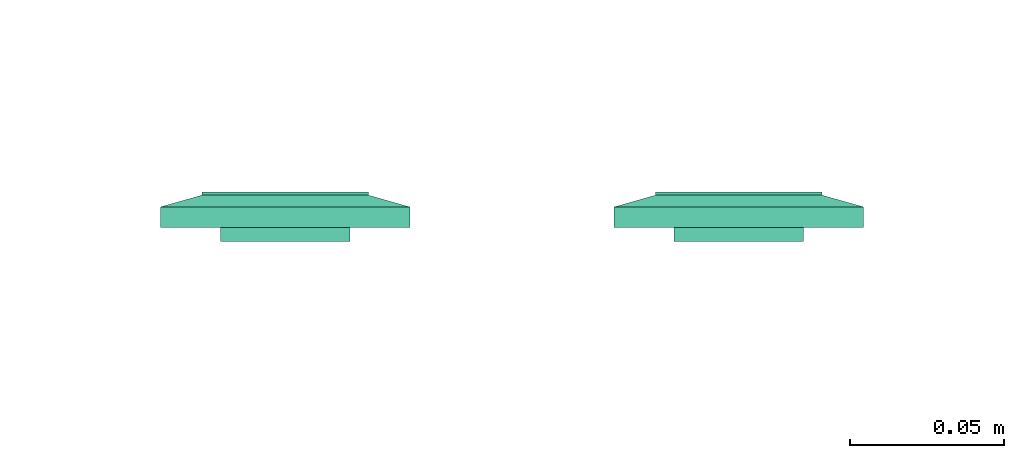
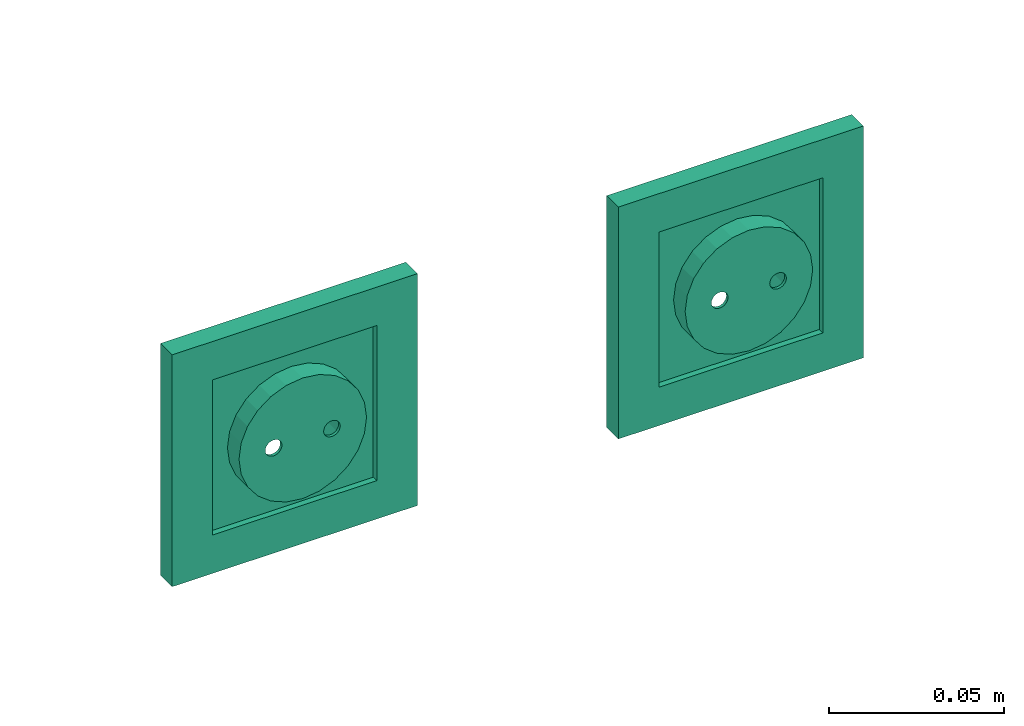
# One storey, part 47 of 146: 2 flow terminals.
"""IFC2X3 building model written with IfcOpenShell, lengths in metres."""

import ifcopenshell
import ifcopenshell.guid

model = None  # the IFC model being written
_history = None  # IfcOwnerHistory: only IFC2X3 demands one
_inside = {}  # id of a spatial element -> (the spatial element, [elements in it])
_under = {}  # id of a project, library or spatial element -> (it, [spatial elements below it])
_declared = {}  # id of a project -> (the project, [libraries it declares])
_typed = {}  # id of a type object -> (the type object, [elements of that type])
_made_of = {}  # id of a material, layer set ... -> (it, [elements and type objects made of it])


def new_model(schema):
    """Start an empty IFC model of exactly this schema.

    Asked for "IFC4X3", IfcOpenShell would pick the latest addendum, in which some entities
    have other attributes; the version numbers below select the first issue.
    IFC2X3 requires an IfcOwnerHistory on every rooted entity: one is made here for all.
    """
    global model, _history
    if schema == "IFC4X3":
        model = ifcopenshell.file(schema_version=(4, 3, 0, 0))
    else:
        model = ifcopenshell.file(schema=schema)
    _inside.clear()
    _under.clear()
    _declared.clear()
    _typed.clear()
    _made_of.clear()
    _history = None
    if model.schema == "IFC2X3":
        org = make("IfcOrganization", Name="unknown")
        user = make(
            "IfcPersonAndOrganization",
            ThePerson=make("IfcPerson", FamilyName="unknown"),
            TheOrganization=org,
        )
        app = make(
            "IfcApplication",
            ApplicationDeveloper=org,
            Version="unknown",
            ApplicationFullName="unknown",
            ApplicationIdentifier="unknown",
        )
        _history = make(
            "IfcOwnerHistory",
            OwningUser=user,
            OwningApplication=app,
            ChangeAction="ADDED",
            CreationDate=0,
        )
    return model


def make(cls, **values):
    """One entity of the class cls with the attributes given. An attribute that is None is left unset."""
    return model.create_entity(
        cls, **{name: value for name, value in values.items() if value is not None}
    )


def entity(cls, *values):
    """Any entity or typed value of the class cls, its attributes in the order of the schema. None: left unset."""
    e = model.create_entity(cls)
    for i, value in enumerate(values):
        if value is not None:
            e[i] = value
    return e


def rooted(cls, **values):
    """An entity with a GlobalId (a new one), such as an element, a storey or a relation."""
    return make(cls, GlobalId=ifcopenshell.guid.new(), OwnerHistory=_history, **values)


def si_unit(unit_type, name, prefix=None):
    """IfcSIUnit, for example si_unit("LENGTHUNIT", "METRE", prefix="MILLI")."""
    return make("IfcSIUnit", UnitType=unit_type, Prefix=prefix, Name=name)


def converted_unit(unit_type, name, factor, base, dimensions=None, offset=None):
    """IfcConversionBasedUnit, such as the inch: factor (a typed value) times the base unit."""
    return make(
        "IfcConversionBasedUnit"
        if offset is None
        else "IfcConversionBasedUnitWithOffset",
        ConversionOffset=offset,
        Dimensions=None
        if dimensions is None
        else entity("IfcDimensionalExponents", *dimensions),
        UnitType=unit_type,
        Name=name,
        ConversionFactor=make(
            "IfcMeasureWithUnit", ValueComponent=factor, UnitComponent=base
        ),
    )


def derived_unit(unit_type, elements):
    """IfcDerivedUnit: a product of units, each with its exponent."""
    return make(
        "IfcDerivedUnit",
        Elements=[
            make("IfcDerivedUnitElement", Unit=unit, Exponent=power)
            for unit, power in elements
        ],
        UnitType=unit_type,
    )


def assignment(units):
    """IfcUnitAssignment: the units of a project."""
    return None if units is None else make("IfcUnitAssignment", Units=units)


def point(xyz):
    """IfcCartesianPoint."""
    return None if xyz is None else make("IfcCartesianPoint", Coordinates=xyz)


def direction(xyz):
    """IfcDirection."""
    return None if xyz is None else make("IfcDirection", DirectionRatios=xyz)


def frame(location, z_axis=None, x_axis=None):
    """IfcAxis2Placement3D, a coordinate frame: its origin and axes. An axis left out is left unset."""
    return make(
        "IfcAxis2Placement3D",
        Location=point(location),
        Axis=direction(z_axis),
        RefDirection=direction(x_axis),
    )


def origin():
    """The frame at (0, 0, 0) with its axes left unset."""
    return frame((0.0, 0.0, 0.0))


def place(relative_to, where):
    """IfcLocalPlacement: puts the frame where relative to a parent placement (None: the world)."""
    return make(
        "IfcLocalPlacement", PlacementRelTo=relative_to, RelativePlacement=where
    )


def context(
    kind, dimensions, precision=None, world=None, true_north=None, identifier=None
):
    """IfcGeometricRepresentationContext, for example the 3D "Model" context."""
    return make(
        "IfcGeometricRepresentationContext",
        ContextIdentifier=identifier,
        ContextType=kind,
        CoordinateSpaceDimension=dimensions,
        Precision=precision,
        WorldCoordinateSystem=world,
        TrueNorth=true_north,
    )


def subcontext(parent, identifier, kind, view, scale=None):
    """IfcGeometricRepresentationSubContext, for example "Body" below "Model"."""
    return make(
        "IfcGeometricRepresentationSubContext",
        ContextIdentifier=identifier,
        ContextType=kind,
        ParentContext=parent,
        TargetScale=scale,
        TargetView=view,
    )


def project(units=None, contexts=None):
    """IfcProject with its units and contexts."""
    return rooted(
        "IfcProject",
        Name="project",
        RepresentationContexts=contexts,
        UnitsInContext=assignment(units),
    )


def spatial(cls, under=None, at=None, **own):
    """A site, building, storey or space (cls), placed at a placement, below another one or the project."""
    s = rooted(cls, ObjectPlacement=at, **own)
    if under is not None:
        _under.setdefault(under.id(), (under, []))[1].append(s)
    return s


def faces_of(points, faces, orient=None, outer=None):
    """IfcFace entities. A face is a list of loops; a loop is a list of indices into points, from 0.

    orient and outer hold one flag for each loop. By default every Orientation is true, the
    first loop of a face is its IfcFaceOuterBound and the others are IfcFaceBound.
    """
    made = []
    for i, loops in enumerate(faces):
        bounds = []
        for j, loop in enumerate(loops):
            is_outer = j == 0 if outer is None else outer[i][j]
            bounds.append(
                make(
                    "IfcFaceOuterBound" if is_outer else "IfcFaceBound",
                    Bound=make("IfcPolyLoop", Polygon=[points[k] for k in loop]),
                    Orientation=True if orient is None else orient[i][j],
                )
            )
        made.append(make("IfcFace", Bounds=bounds))
    return made


def face_set(faces, orient=None, outer=None):
    """The faces of one IfcConnectedFaceSet. surface_model builds it on its shared points."""
    return ("IfcConnectedFaceSet", faces, orient, outer)


def surface_model(cls, points, shells):
    """IfcFaceBasedSurfaceModel or IfcShellBasedSurfaceModel (cls): surfaces that need not close."""
    shared = [point(p) for p in points]
    made = [make(c, CfsFaces=faces_of(shared, fs, o, b)) for c, fs, o, b in shells]
    if cls == "IfcFaceBasedSurfaceModel":
        return make(cls, FbsmFaces=made)
    return make(cls, SbsmBoundary=made)


def shape(context_of_items, identifier, shape_type, items):
    """IfcShapeRepresentation: the items that make up one representation, for example the "Body"."""
    return make(
        "IfcShapeRepresentation",
        ContextOfItems=context_of_items,
        RepresentationIdentifier=identifier,
        RepresentationType=shape_type,
        Items=items,
    )


def source(mapping_origin, context_of_items, identifier, shape_type, items):
    """IfcRepresentationMap: a shape defined once, which mapped items show again and again."""
    return make(
        "IfcRepresentationMap",
        MappingOrigin=mapping_origin,
        MappedRepresentation=shape(context_of_items, identifier, shape_type, items),
    )


def transform(
    local_origin,
    x_axis=None,
    y_axis=None,
    z_axis=None,
    scale=None,
    scale2=None,
    scale3=None,
    uniform=True,
):
    """IfcCartesianTransformationOperator3D, or its non-uniform kind. x_axis, y_axis, z_axis: its Axis1, 2, 3."""
    if uniform:
        return make(
            "IfcCartesianTransformationOperator3D",
            Axis1=direction(x_axis),
            Axis2=direction(y_axis),
            LocalOrigin=point(local_origin),
            Scale=scale,
            Axis3=direction(z_axis),
        )
    return make(
        "IfcCartesianTransformationOperator3DnonUniform",
        Axis1=direction(x_axis),
        Axis2=direction(y_axis),
        LocalOrigin=point(local_origin),
        Scale=scale,
        Axis3=direction(z_axis),
        Scale2=scale2,
        Scale3=scale3,
    )


def mapped(mapping_source, mapping_target):
    """IfcMappedItem: shows the shape of a source again, moved by a transform."""
    return make(
        "IfcMappedItem", MappingSource=mapping_source, MappingTarget=mapping_target
    )


def made_of(thing, what):
    """Note that an element or type object is made of a material, layer set ...; save() writes the relation."""
    if what is not None:
        _made_of.setdefault(what.id(), (what, []))[1].append(thing)
    return thing


def type_object(cls, material=None, **own):
    """A type object (cls), such as IfcWallType, which elements share."""
    return made_of(rooted(cls, **own), material)


def type_shapes(of_type, sources):
    """Give a type object the sources (RepresentationMaps) that its elements show as mapped items."""
    of_type.RepresentationMaps = sources


def element(
    cls,
    number,
    at=None,
    inside=None,
    cuts=None,
    type_object=None,
    material=None,
    context=None,
    identifier="Body",
    shape_type=None,
    held_by="IfcProductDefinitionShape",
    body=None,
    shapes=None,
    **own,
):
    """One element of the class cls, such as IfcWall. Its Tag is "e" and its number.

    at: its placement. inside: the storey or other place that contains it. cuts: it is an
    opening in that element (IfcRelVoidsElement). A single representation is given by context,
    identifier, shape_type and body (its items); several are given by shapes. held_by: the class
    of the entity that holds the representations. save() writes the other relations.
    """
    e = rooted(cls, Tag="e%d" % number, ObjectPlacement=at, **own)
    if body is not None:
        shapes = [shape(context, identifier, shape_type, body)]
    if shapes is not None:
        e.Representation = make(held_by, Representations=shapes)
    if inside is not None:
        _inside.setdefault(inside.id(), (inside, []))[1].append(e)
    if cuts is not None:
        rooted(
            "IfcRelVoidsElement", RelatingBuildingElement=cuts, RelatedOpeningElement=e
        )
    if type_object is not None:
        _typed.setdefault(type_object.id(), (type_object, []))[1].append(e)
    return made_of(e, material)


def aggregate(whole, parts):
    """IfcRelAggregates: a whole, such as a stair, and the parts it consists of."""
    return rooted("IfcRelAggregates", RelatingObject=whole, RelatedObjects=parts)


def save(model, path):
    """Write the relations noted so far, then the file.

    IfcRelAggregates (storeys below a building ...), IfcRelContainedInSpatialStructure (elements
    in a storey), IfcRelDefinesByType, IfcRelAssociatesMaterial and IfcRelDeclares: one each for
    every whole, place, type object, material and project.
    """
    for whole, parts in _under.values():
        aggregate(whole, parts)
    for where, things in _inside.values():
        rooted(
            "IfcRelContainedInSpatialStructure",
            RelatedElements=things,
            RelatingStructure=where,
        )
    for kind, things in _typed.values():
        rooted("IfcRelDefinesByType", RelatedObjects=things, RelatingType=kind)
    for what, things in _made_of.values():
        rooted("IfcRelAssociatesMaterial", RelatedObjects=things, RelatingMaterial=what)
    for by, libraries in _declared.values():
        rooted("IfcRelDeclares", RelatingContext=by, RelatedDefinitions=libraries)
    model.write(path)


model = new_model("IFC2X3")

# Units and contexts
model_context = context("Model", 3, precision=1e-05, world=origin(), true_north=direction((6.12303176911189e-17, 1.0)))
body_context = subcontext(model_context, "Body", "Model", "MODEL_VIEW")
ifc_project = project(units=[si_unit("LENGTHUNIT", "METRE"), si_unit("AREAUNIT", "SQUARE_METRE"), si_unit("VOLUMEUNIT", "CUBIC_METRE"), converted_unit("PLANEANGLEUNIT", "DEGREE", entity("IfcRatioMeasure", 0.0174532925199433), si_unit("PLANEANGLEUNIT", "RADIAN"), dimensions=[0, 0, 0, 0, 0, 0, 0]), si_unit("MASSUNIT", "GRAM", prefix="KILO"), derived_unit("MASSDENSITYUNIT", [(si_unit("MASSUNIT", "GRAM", prefix="KILO"), 1), (si_unit("LENGTHUNIT", "METRE"), -3)]), si_unit("TIMEUNIT", "SECOND"), si_unit("FREQUENCYUNIT", "HERTZ"), si_unit("THERMODYNAMICTEMPERATUREUNIT", "DEGREE_CELSIUS"), derived_unit("THERMALTRANSMITTANCEUNIT", [(si_unit("MASSUNIT", "GRAM", prefix="KILO"), 1), (si_unit("THERMODYNAMICTEMPERATUREUNIT", "KELVIN"), -1), (si_unit("TIMEUNIT", "SECOND"), -3)]), derived_unit("VOLUMETRICFLOWRATEUNIT", [(si_unit("LENGTHUNIT", "METRE"), 3), (si_unit("TIMEUNIT", "SECOND"), -1)]), si_unit("ELECTRICCURRENTUNIT", "AMPERE"), si_unit("ELECTRICVOLTAGEUNIT", "VOLT"), si_unit("POWERUNIT", "WATT"), si_unit("FORCEUNIT", "NEWTON"), si_unit("ILLUMINANCEUNIT", "LUX"), si_unit("LUMINOUSFLUXUNIT", "LUMEN"), si_unit("LUMINOUSINTENSITYUNIT", "CANDELA"), derived_unit("USERDEFINED", [(si_unit("MASSUNIT", "GRAM", prefix="KILO"), -1), (si_unit("LENGTHUNIT", "METRE"), -2), (si_unit("TIMEUNIT", "SECOND"), 3), (si_unit("LUMINOUSFLUXUNIT", "LUMEN"), 1)]), derived_unit("LINEARVELOCITYUNIT", [(si_unit("LENGTHUNIT", "METRE"), 1), (si_unit("TIMEUNIT", "SECOND"), -1)]), si_unit("PRESSUREUNIT", "PASCAL"), derived_unit("USERDEFINED", [(si_unit("LENGTHUNIT", "METRE"), -2), (si_unit("MASSUNIT", "GRAM", prefix="KILO"), 1), (si_unit("TIMEUNIT", "SECOND"), -2)])], contexts=[model_context])

# Site, building, storey
site_placement = place(None, origin())
site = spatial("IfcSite", under=ifc_project, at=site_placement, Name="Default", CompositionType="ELEMENT")
building_placement = place(site_placement, origin())
building = spatial("IfcBuilding", under=site, at=building_placement, CompositionType="ELEMENT")
storey_placement = place(building_placement, origin())
storey = spatial("IfcBuildingStorey", under=building, at=storey_placement, Name="S01", CompositionType="ELEMENT", Elevation=0.0)

# Flow terminals
light_fixture_type = type_object("IfcLightFixtureType", Name="PC IP21", PredefinedType="NOTDEFINED")
shared_shape = source(origin(), body_context, "Body", "SurfaceModel", [
    surface_model("IfcFaceBasedSurfaceModel", [(-0.00225000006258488, 0.0127499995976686, 0.00949633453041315), (0.0, 0.0104999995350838, 0.00949633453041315), (0.0, 0.0115376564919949, 0.0101656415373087), (0.0, 0.0139623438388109, 0.0101656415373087), (0.0, 0.0144589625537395, 0.00984531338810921), (0.0, 0.0121178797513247, 0.0102778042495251), (0.0, 0.0133821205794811, 0.0102778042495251), (0.0, 0.0127499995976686, 0.010399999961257), (0.0, 0.0149999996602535, 0.00949633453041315), (0.00225000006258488, 0.0127499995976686, 0.00949633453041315), (0.0, 0.0110410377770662, 0.00984531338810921), (0.0, 0.0127499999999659, 0.00949633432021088), (0.00225000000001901, 0.0127499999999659, 0.00949633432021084), (0.00217333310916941, 0.0121676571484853, 0.00949633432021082), (0.00194855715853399, 0.0116249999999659, 0.00949633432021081), (0.00159099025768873, 0.0111590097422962, 0.00949633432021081), (0.001125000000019, 0.010801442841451, 0.00949633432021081), (0.00058234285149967, 0.0105766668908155, 0.00949633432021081), (0.0, 0.0104999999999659, 0.00949633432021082), (-0.000582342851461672, 0.0105766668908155, 0.00949633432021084), (-0.001124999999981, 0.010801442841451, 0.00949633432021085), (-0.00159099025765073, 0.0111590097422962, 0.00949633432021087), (-0.00194855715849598, 0.011624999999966, 0.00949633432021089), (-0.0021733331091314, 0.0121676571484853, 0.00949633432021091), (-0.00224999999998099, 0.012749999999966, 0.00949633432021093), (-0.00217333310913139, 0.0133323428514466, 0.00949633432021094), (-0.00194855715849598, 0.013874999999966, 0.00949633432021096), (-0.00159099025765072, 0.0143409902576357, 0.00949633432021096), (-0.00112499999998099, 0.0146985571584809, 0.00949633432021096), (-0.00058234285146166, 0.0149233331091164, 0.00949633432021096), (0.0, 0.0149999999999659, 0.00949633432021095), (0.000582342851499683, 0.0149233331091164, 0.00949633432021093), (0.00112500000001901, 0.0146985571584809, 0.00949633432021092), (0.00159099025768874, 0.0143409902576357, 0.00949633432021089), (0.001948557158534, 0.0138749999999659, 0.00949633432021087), (0.00217333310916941, 0.0133323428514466, 0.00949633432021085), (0.00225000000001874, 0.0127499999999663, -0.00360000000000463), (0.00217333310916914, 0.0121676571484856, -0.00360000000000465), (0.00194855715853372, 0.0116249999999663, -0.00360000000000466), (0.00159099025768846, 0.0111590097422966, -0.00360000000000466), (0.00112500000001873, 0.0108014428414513, -0.00360000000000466), (0.000582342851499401, 0.0105766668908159, -0.00360000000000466), (0.0, 0.0104999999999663, -0.00360000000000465), (-0.000582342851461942, 0.0105766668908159, -0.00360000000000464), (-0.00112499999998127, 0.0108014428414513, -0.00360000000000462), (-0.001590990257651, 0.0111590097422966, -0.0036000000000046), (-0.00194855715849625, 0.0116249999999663, -0.00360000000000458), (-0.00217333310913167, 0.0121676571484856, -0.00360000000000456), (-0.00224999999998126, 0.0127499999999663, -0.00360000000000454), (-0.00217333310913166, 0.013332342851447, -0.00360000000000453), (-0.00194855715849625, 0.0138749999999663, -0.00360000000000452), (-0.00159099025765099, 0.014340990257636, -0.00360000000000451), (-0.00112499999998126, 0.0146985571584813, -0.00360000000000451), (-0.000582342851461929, 0.0149233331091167, -0.00360000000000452), (0.0, 0.0149999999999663, -0.00360000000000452), (0.000582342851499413, 0.0149233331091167, -0.00360000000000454), (0.00112500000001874, 0.0146985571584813, -0.00360000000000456), (0.00159099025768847, 0.014340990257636, -0.00360000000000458), (0.00194855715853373, 0.0138749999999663, -0.0036000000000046), (0.00217333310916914, 0.013332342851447, -0.00360000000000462), (0.0270000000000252, 0.026999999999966, 0.0113999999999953), (-0.0269999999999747, 0.026999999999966, 0.0113999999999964), (-0.0269999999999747, -0.0270000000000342, 0.0113999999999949), (0.0270000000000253, -0.0270000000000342, 0.0113999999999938), (-0.0199999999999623, 0.0, 0.0113999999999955), (-0.0193185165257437, -0.00517638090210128, 0.0113999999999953), (-0.0173205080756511, -0.0100000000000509, 0.0113999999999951), (-0.0141421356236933, -0.0141421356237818, 0.011399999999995), (-0.00999999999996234, -0.0173205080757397, 0.0113999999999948), (-0.00517638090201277, -0.0193185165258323, 0.0113999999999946), (0.0, -0.0200000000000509, 0.0113999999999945), (0.00517638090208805, -0.0193185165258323, 0.0113999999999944), (0.0100000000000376, -0.0173205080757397, 0.0113999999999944), (0.0141421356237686, -0.0141421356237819, 0.0113999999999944), (0.0173205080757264, -0.010000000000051, 0.0113999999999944), (0.0193185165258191, -0.00517638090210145, 0.0113999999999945), (0.0200000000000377, 0.0, 0.0113999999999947), (0.0193185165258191, 0.00517638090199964, 0.0113999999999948), (0.0173205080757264, 0.0099999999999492, 0.011399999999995), (0.0141421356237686, 0.0141421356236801, 0.0113999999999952), (0.0100000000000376, 0.0173205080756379, 0.0113999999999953), (0.00517638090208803, 0.0193185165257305, 0.0113999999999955), (0.0, 0.0199999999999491, 0.0113999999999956), (-0.00517638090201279, 0.0193185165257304, 0.0113999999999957), (-0.00999999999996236, 0.0173205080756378, 0.0113999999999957), (-0.0141421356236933, 0.01414213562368, 0.0113999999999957), (-0.0173205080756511, 0.00999999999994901, 0.0113999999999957), (-0.0193185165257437, 0.00517638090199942, 0.0113999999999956), (0.0270000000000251, 0.0269999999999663, 0.00199999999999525), (0.0270000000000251, -0.0270000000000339, 0.00199999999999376), (-0.0269999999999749, -0.0270000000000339, 0.00199999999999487), (-0.0269999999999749, 0.0269999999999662, 0.00199999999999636), (0.0210000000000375, 0.0, 0.00199999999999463), (0.0202844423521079, -0.00543519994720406, 0.00199999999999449), (0.0181865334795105, -0.0105000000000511, 0.0019999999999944), (0.0148492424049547, -0.0148492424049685, 0.00199999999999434), (0.0105000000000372, -0.0181865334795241, 0.00199999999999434), (0.0054351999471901, -0.0202844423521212, 0.00199999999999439), (0.0, -0.0210000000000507, 0.00199999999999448), (-0.00543519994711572, -0.020284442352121, 0.00199999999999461), (-0.0104999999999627, -0.0181865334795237, 0.00199999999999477), (-0.0148492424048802, -0.014849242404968, 0.00199999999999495), (-0.0181865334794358, -0.0105000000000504, 0.00199999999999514), (-0.020284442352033, -0.00543519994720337, 0.00199999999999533), (-0.0209999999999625, 0.0, 0.00199999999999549), (-0.0202844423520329, 0.0054351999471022, 0.00199999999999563), (-0.0181865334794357, 0.0104999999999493, 0.00199999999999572), (-0.01484924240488, 0.0148492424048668, 0.00199999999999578), (-0.0104999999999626, 0.0181865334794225, 0.00199999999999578), (-0.00543519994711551, 0.0202844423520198, 0.00199999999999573), (0.0, 0.0209999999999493, 0.00199999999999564), (0.00543519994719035, 0.0202844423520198, 0.00199999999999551), (0.0105000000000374, 0.0181865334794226, 0.00199999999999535), (0.0148492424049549, 0.0148492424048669, 0.00199999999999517), (0.0181865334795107, 0.0104999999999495, 0.00199999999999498), (0.0202844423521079, 0.00543519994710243, 0.00199999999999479), (0.0200000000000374, 0.0, -0.00360000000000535), (0.0193185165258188, -0.00517638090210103, -0.00360000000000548), (0.0173205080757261, -0.0100000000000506, -0.00360000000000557), (0.0141421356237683, -0.0141421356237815, -0.00360000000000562), (0.0100000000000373, -0.0173205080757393, -0.00360000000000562), (0.00517638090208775, -0.0193185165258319, -0.00360000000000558), (0.0, -0.0200000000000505, -0.00360000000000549), (-0.00517638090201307, -0.0193185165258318, -0.00360000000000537), (-0.00999999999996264, -0.0173205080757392, -0.00360000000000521), (-0.0141421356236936, -0.0141421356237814, -0.00360000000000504), (-0.0173205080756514, -0.0100000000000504, -0.00360000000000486), (-0.019318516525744, -0.00517638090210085, -0.00360000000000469), (-0.0199999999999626, 0.0, -0.00360000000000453), (-0.0193185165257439, 0.00517638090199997, -0.0036000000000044), (-0.0173205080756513, 0.00999999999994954, -0.00360000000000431), (-0.0141421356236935, 0.0141421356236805, -0.00360000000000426), (-0.00999999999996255, 0.0173205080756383, -0.00360000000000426), (-0.00517638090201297, 0.0193185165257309, -0.0036000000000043), (0.0, 0.0199999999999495, -0.00360000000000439), (0.00517638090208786, 0.0193185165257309, -0.00360000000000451), (0.0100000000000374, 0.0173205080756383, -0.00360000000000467), (0.0141421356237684, 0.0141421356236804, -0.00360000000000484), (0.0173205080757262, 0.0099999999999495, -0.00360000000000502), (0.0193185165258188, 0.00517638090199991, -0.00360000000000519), (-0.0123499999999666, 0.0, -0.00360000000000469), (-0.0122562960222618, -0.000711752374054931, -0.00360000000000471), (-0.0119815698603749, -0.00137500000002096, -0.00360000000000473), (-0.0115445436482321, -0.00194454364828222, -0.00360000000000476), (-0.0109749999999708, -0.00238156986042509, -0.00360000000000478), (-0.0103117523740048, -0.00265629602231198, -0.0036000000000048), (-0.00959999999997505, -0.00275000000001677, -0.00360000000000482), (-0.0088882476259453, -0.00265629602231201, -0.00360000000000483), (-0.00822499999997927, -0.00238156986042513, -0.00360000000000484), (-0.00765545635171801, -0.00194454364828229, -0.00360000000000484), (-0.00721843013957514, -0.00137500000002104, -0.00360000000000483), (-0.00694370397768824, -0.000711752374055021, -0.00360000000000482), (-0.00684999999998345, 0.0, -0.0036000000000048), (-0.00694370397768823, 0.000711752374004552, -0.00360000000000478), (-0.00721843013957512, 0.00137499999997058, -0.00360000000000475), (-0.00765545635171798, 0.00194454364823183, -0.00360000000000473), (-0.00822499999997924, 0.00238156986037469, -0.0036000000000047), (-0.00888824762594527, 0.00265629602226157, -0.00360000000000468), (-0.00959999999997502, 0.00274999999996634, -0.00360000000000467), (-0.0103117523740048, 0.00265629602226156, -0.00360000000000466), (-0.0109749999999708, 0.00238156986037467, -0.00360000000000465), (-0.011544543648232, 0.00194454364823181, -0.00360000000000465), (-0.0119815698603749, 0.00137499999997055, -0.00360000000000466), (-0.0122562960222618, 0.000711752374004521, -0.00360000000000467), (0.00685000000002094, 0.0, -0.00360000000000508), (0.0069437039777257, -0.00071175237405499, -0.0036000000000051), (0.00721843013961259, -0.00137500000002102, -0.00360000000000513), (0.00765545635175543, -0.00194454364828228, -0.00360000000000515), (0.00822500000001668, -0.00238156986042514, -0.00360000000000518), (0.00888824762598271, -0.00265629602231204, -0.0036000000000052), (0.00960000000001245, -0.00275000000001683, -0.00360000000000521), (0.0103117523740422, -0.00265629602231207, -0.00360000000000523), (0.0109750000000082, -0.00238156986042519, -0.00360000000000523), (0.0115445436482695, -0.00194454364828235, -0.00360000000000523), (0.0119815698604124, -0.0013750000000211, -0.00360000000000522), (0.0122562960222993, -0.00071175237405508, -0.00360000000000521), (0.012350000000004, 0.0, -0.00360000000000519), (0.0122562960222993, 0.000711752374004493, -0.00360000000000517), (0.0119815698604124, 0.00137499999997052, -0.00360000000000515), (0.0115445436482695, 0.00194454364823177, -0.00360000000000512), (0.0109750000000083, 0.00238156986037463, -0.0036000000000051), (0.0103117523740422, 0.00265629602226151, -0.00360000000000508), (0.00960000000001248, 0.00274999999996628, -0.00360000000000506), (0.00888824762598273, 0.0026562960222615, -0.00360000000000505), (0.0082250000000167, 0.00238156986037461, -0.00360000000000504), (0.00765545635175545, 0.00194454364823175, -0.00360000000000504), (0.0072184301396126, 0.00137499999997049, -0.00360000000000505), (0.00694370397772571, 0.000711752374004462, -0.00360000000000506), (0.0210000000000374, 0.0, -0.00460000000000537), (0.0202844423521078, -0.00543519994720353, -0.00460000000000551), (0.0181865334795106, -0.0105000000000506, -0.0046000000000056), (0.0148492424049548, -0.0148492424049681, -0.00460000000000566), (0.0105000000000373, -0.0181865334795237, -0.00460000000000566), (0.00543519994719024, -0.0202844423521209, -0.00460000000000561), (0.0, -0.0210000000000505, -0.00460000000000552), (-0.00543519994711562, -0.0202844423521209, -0.00460000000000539), (-0.0104999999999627, -0.0181865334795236, -0.00460000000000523), (-0.0148492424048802, -0.0148492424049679, -0.00460000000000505), (-0.0181865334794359, -0.0105000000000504, -0.00460000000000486), (-0.0202844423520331, -0.00543519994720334, -0.00460000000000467), (-0.0209999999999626, 0.0, -0.00460000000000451), (-0.020284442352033, 0.00543519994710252, -0.00460000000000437), (-0.0181865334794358, 0.0104999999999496, -0.00460000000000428), (-0.0148492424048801, 0.0148492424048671, -0.00460000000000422), (-0.0104999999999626, 0.0181865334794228, -0.00460000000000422), (-0.00543519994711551, 0.02028444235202, -0.00460000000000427), (0.0, 0.0209999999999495, -0.00460000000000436), (0.00543519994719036, 0.02028444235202, -0.00460000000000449), (0.0105000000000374, 0.0181865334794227, -0.00460000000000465), (0.0148492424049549, 0.014849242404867, -0.00460000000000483), (0.0181865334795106, 0.0104999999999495, -0.00460000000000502), (0.0202844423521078, 0.00543519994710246, -0.00460000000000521), (-0.00684999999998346, 0.0, -0.0046000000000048), (-0.00694370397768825, 0.000711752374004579, -0.00460000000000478), (-0.00721843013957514, 0.00137499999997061, -0.00460000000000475), (-0.007655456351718, 0.00194454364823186, -0.00460000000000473), (-0.00822499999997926, 0.00238156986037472, -0.0046000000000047), (-0.00888824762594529, 0.0026562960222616, -0.00460000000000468), (-0.00959999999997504, 0.00274999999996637, -0.00460000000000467), (-0.0103117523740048, 0.00265629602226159, -0.00460000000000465), (-0.0109749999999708, 0.0023815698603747, -0.00460000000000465), (-0.0115445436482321, 0.00194454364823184, -0.00460000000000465), (-0.0119815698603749, 0.00137499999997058, -0.00460000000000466), (-0.0122562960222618, 0.000711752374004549, -0.00460000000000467), (-0.0123499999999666, 0.0, -0.00460000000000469), (-0.0122562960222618, -0.000711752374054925, -0.00460000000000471), (-0.0119815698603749, -0.00137500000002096, -0.00460000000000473), (-0.0115445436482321, -0.00194454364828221, -0.00460000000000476), (-0.0109749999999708, -0.00238156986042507, -0.00460000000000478), (-0.0103117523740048, -0.00265629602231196, -0.0046000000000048), (-0.00959999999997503, -0.00275000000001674, -0.00460000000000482), (-0.00888824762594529, -0.00265629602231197, -0.00460000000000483), (-0.00822499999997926, -0.00238156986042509, -0.00460000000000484), (-0.007655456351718, -0.00194454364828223, -0.00460000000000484), (-0.00721843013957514, -0.00137500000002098, -0.00460000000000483), (-0.00694370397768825, -0.000711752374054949, -0.00460000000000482), (0.012350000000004, 0.0, -0.00460000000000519), (0.0122562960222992, 0.000711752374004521, -0.00460000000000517), (0.0119815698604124, 0.00137499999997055, -0.00460000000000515), (0.0115445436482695, 0.0019445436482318, -0.00460000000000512), (0.0109750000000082, 0.00238156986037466, -0.0046000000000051), (0.0103117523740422, 0.00265629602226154, -0.00460000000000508), (0.00960000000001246, 0.00274999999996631, -0.00460000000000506), (0.00888824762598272, 0.00265629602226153, -0.00460000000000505), (0.00822500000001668, 0.00238156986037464, -0.00460000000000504), (0.00765545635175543, 0.00194454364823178, -0.00460000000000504), (0.00721843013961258, 0.00137499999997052, -0.00460000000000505), (0.00694370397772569, 0.00071175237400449, -0.00460000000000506), (0.00685000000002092, 0.0, -0.00460000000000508), (0.00694370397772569, -0.000711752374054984, -0.0046000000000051), (0.00721843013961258, -0.00137500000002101, -0.00460000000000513), (0.00765545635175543, -0.00194454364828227, -0.00460000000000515), (0.00822500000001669, -0.00238156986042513, -0.00460000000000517), (0.00888824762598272, -0.00265629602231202, -0.0046000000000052), (0.00960000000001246, -0.0027500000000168, -0.00460000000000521), (0.0103117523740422, -0.00265629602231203, -0.00460000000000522), (0.0109750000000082, -0.00238156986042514, -0.00460000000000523), (0.0115445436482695, -0.00194454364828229, -0.00460000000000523), (0.0119815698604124, -0.00137500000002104, -0.00460000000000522), (0.0122562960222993, -0.000711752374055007, -0.00460000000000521), (0.040350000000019, 0.0403499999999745, 0.00659999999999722), (0.040350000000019, -0.0403500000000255, 0.00659999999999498), (-0.0403499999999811, -0.0403500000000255, 0.00659999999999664), (-0.0403499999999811, 0.0403499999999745, 0.00659999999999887), (0.027000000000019, 0.0269999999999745, 0.00659999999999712), (-0.0269999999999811, 0.0269999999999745, 0.00659999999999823), (-0.026999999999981, -0.0270000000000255, 0.00659999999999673), (0.027000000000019, -0.0270000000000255, 0.00659999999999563), (0.027000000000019, 0.0269999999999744, 0.0103999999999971), (-0.026999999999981, 0.0269999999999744, 0.0103999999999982), (-0.026999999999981, -0.0270000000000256, 0.0103999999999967), (0.027000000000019, -0.0270000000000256, 0.0103999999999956), (0.040350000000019, 0.0403499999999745, 0.00659999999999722), (0.040350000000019, -0.0403500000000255, 0.00659999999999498), (-0.0403499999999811, -0.0403500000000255, 0.00659999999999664), (-0.0403499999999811, 0.0403499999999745, 0.00659999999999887), (-0.0269999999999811, 0.0269999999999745, 0.00659999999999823), (-0.0269999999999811, -0.0270000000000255, 0.00659999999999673), (0.0270000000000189, -0.0270000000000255, 0.00659999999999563), (0.0270000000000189, 0.0269999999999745, 0.00659999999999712), (0.0403500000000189, 0.0403499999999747, 0.0), (0.0403500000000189, -0.0403500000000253, 0.0), (-0.0403499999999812, -0.0403500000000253, 0.0), (-0.0403499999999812, 0.0403499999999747, 0.0), (0.0270000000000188, 0.0269999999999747, 0.0), (-0.0269999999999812, 0.0269999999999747, 0.0), (-0.0269999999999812, -0.0270000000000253, 0.0), (0.0270000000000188, -0.0270000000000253, 0.0)], [face_set([[[0, 1, 2]], [[3, 4, 2, 5]], [[6, 3, 5, 7]], [[2, 4, 0]], [[4, 8, 0]], [[3, 9, 8]], [[1, 9, 10]], [[2, 3, 6, 7]], [[3, 10, 9]], [[2, 10, 3]], [[11, 1, 0, 8]], [[11, 8, 9, 1]]]), face_set([[[12, 13, 14, 15, 16, 17, 18, 19, 20, 21, 22, 23, 24, 25, 26, 27, 28, 29, 30, 31, 32, 33, 34, 35]], [[36, 37, 38, 39, 40, 41, 42, 43, 44, 45, 46, 47, 48, 49, 50, 51, 52, 53, 54, 55, 56, 57, 58, 59]], [[48, 47, 23, 24]], [[47, 46, 22, 23]], [[45, 44, 20, 21]], [[46, 45, 21, 22]], [[44, 43, 19, 20]], [[18, 19, 43, 42]], [[42, 41, 17, 18]], [[41, 40, 16, 17]], [[39, 38, 14, 15]], [[40, 39, 15, 16]], [[38, 37, 13, 14]], [[12, 13, 37, 36]], [[36, 59, 35, 12]], [[59, 58, 34, 35]], [[57, 56, 32, 33]], [[58, 57, 33, 34]], [[56, 55, 31, 32]], [[30, 31, 55, 54]], [[54, 53, 29, 30]], [[53, 52, 28, 29]], [[51, 50, 26, 27]], [[52, 51, 27, 28]], [[50, 49, 25, 26]], [[24, 25, 49, 48]]]), face_set([[[60, 61, 62, 63], [64, 65, 66, 67, 68, 69, 70, 71, 72, 73, 74, 75, 76, 77, 78, 79, 80, 81, 82, 83, 84, 85, 86, 87]], [[88, 89, 90, 91], [92, 93, 94, 95, 96, 97, 98, 99, 100, 101, 102, 103, 104, 105, 106, 107, 108, 109, 110, 111, 112, 113, 114, 115]], [[61, 60, 88, 91]], [[62, 61, 91, 90]], [[63, 62, 90, 89]], [[60, 63, 89, 88]], [[116, 117, 118, 119, 120, 121, 122, 123, 124, 125, 126, 127, 128, 129, 130, 131, 132, 133, 134, 135, 136, 137, 138, 139], [140, 141, 142, 143, 144, 145, 146, 147, 148, 149, 150, 151, 152, 153, 154, 155, 156, 157, 158, 159, 160, 161, 162, 163], [164, 165, 166, 167, 168, 169, 170, 171, 172, 173, 174, 175, 176, 177, 178, 179, 180, 181, 182, 183, 184, 185, 186, 187]], [[64, 128, 127, 65]], [[65, 127, 126, 66]], [[67, 125, 124, 68]], [[66, 126, 125, 67]], [[68, 124, 123, 69]], [[122, 70, 69, 123]], [[70, 122, 121, 71]], [[71, 121, 120, 72]], [[73, 119, 118, 74]], [[72, 120, 119, 73]], [[74, 118, 117, 75]], [[116, 76, 75, 117]], [[76, 116, 139, 77]], [[77, 139, 138, 78]], [[79, 137, 136, 80]], [[78, 138, 137, 79]], [[80, 136, 135, 81]], [[134, 82, 81, 135]], [[82, 134, 133, 83]], [[83, 133, 132, 84]], [[84, 132, 131, 85]], [[85, 131, 130, 86]], [[130, 129, 87, 86]], [[64, 87, 129, 128]], [[188, 189, 190, 191, 192, 193, 194, 195, 196, 197, 198, 199, 200, 201, 202, 203, 204, 205, 206, 207, 208, 209, 210, 211], [212, 213, 214, 215, 216, 217, 218, 219, 220, 221, 222, 223, 224, 225, 226, 227, 228, 229, 230, 231, 232, 233, 234, 235], [236, 237, 238, 239, 240, 241, 242, 243, 244, 245, 246, 247, 248, 249, 250, 251, 252, 253, 254, 255, 256, 257, 258, 259]], [[200, 199, 103, 104]], [[199, 198, 102, 103]], [[197, 196, 100, 101]], [[198, 197, 101, 102]], [[196, 195, 99, 100]], [[98, 99, 195, 194]], [[194, 193, 97, 98]], [[193, 192, 96, 97]], [[191, 190, 94, 95]], [[192, 191, 95, 96]], [[190, 189, 93, 94]], [[92, 93, 189, 188]], [[188, 211, 115, 92]], [[211, 210, 114, 115]], [[209, 208, 112, 113]], [[210, 209, 113, 114]], [[208, 207, 111, 112]], [[110, 111, 207, 206]], [[206, 205, 109, 110]], [[205, 204, 108, 109]], [[203, 202, 106, 107]], [[204, 203, 107, 108]], [[202, 201, 105, 106]], [[104, 105, 201, 200]], [[141, 225, 226, 142]], [[140, 224, 225, 141]], [[144, 228, 229, 145]], [[143, 227, 228, 144]], [[142, 226, 227, 143]], [[230, 146, 145, 229]], [[149, 233, 232, 148]], [[148, 232, 231, 147]], [[152, 212, 235, 151]], [[151, 235, 234, 150]], [[150, 234, 233, 149]], [[146, 230, 231, 147]], [[154, 214, 213, 153]], [[153, 213, 212, 152]], [[157, 217, 216, 156]], [[156, 216, 215, 155]], [[155, 215, 214, 154]], [[218, 158, 157, 217]], [[160, 220, 221, 161]], [[159, 219, 220, 160]], [[163, 223, 224, 140]], [[162, 222, 223, 163]], [[161, 221, 222, 162]], [[158, 218, 219, 159]], [[166, 250, 249, 165]], [[165, 249, 248, 164]], [[169, 253, 252, 168]], [[168, 252, 251, 167]], [[167, 251, 250, 166]], [[254, 170, 169, 253]], [[172, 256, 257, 173]], [[171, 255, 256, 172]], [[175, 259, 236, 176]], [[174, 258, 259, 175]], [[173, 257, 258, 174]], [[170, 254, 255, 171]], [[177, 237, 238, 178]], [[176, 236, 237, 177]], [[180, 240, 241, 181]], [[179, 239, 240, 180]], [[178, 238, 239, 179]], [[242, 182, 181, 241]], [[185, 245, 244, 184]], [[184, 244, 243, 183]], [[164, 248, 247, 187]], [[187, 247, 246, 186]], [[186, 246, 245, 185]], [[182, 242, 243, 183]]]), face_set([[[260, 261, 262, 263], [264, 265, 266, 267]], [[260, 268, 269, 263]], [[263, 269, 270, 262]], [[262, 270, 271, 261]], [[261, 271, 268, 260]], [[264, 265, 269, 268]], [[265, 266, 270, 269]], [[266, 267, 271, 270]], [[268, 271, 267, 264]]]), face_set([[[272, 273, 274, 275], [276, 277, 278, 279]], [[280, 281, 282, 283], [284, 285, 286, 287]], [[275, 272, 280, 283]], [[274, 275, 283, 282]], [[273, 274, 282, 281]], [[272, 273, 281, 280]], [[284, 285, 276, 279]], [[285, 286, 277, 276]], [[286, 287, 278, 277]], [[279, 278, 287, 284]]])]),
])
type_shapes(light_fixture_type, [shared_shape])
for number, where, z_axis, x_axis in (
    (1, (50.6419811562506, -190.50556962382, 1.0), (0.0, 1.0, 0.0), (-1.0, 0.0, 0.0)),
    (2, (50.4951341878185, -190.50556962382, 1.0), (0.0, 1.0, 0.0), (-1.0, 0.0, 0.0)),
):
    element("IfcFlowTerminal", number, at=place(storey_placement, frame(where, z_axis=z_axis, x_axis=x_axis)), inside=storey, type_object=light_fixture_type, Name="INT Prise de courant:PC IP21", ObjectType="INT Prise de courant:PC IP21", context=body_context, shape_type="MappedRepresentation", body=[
        mapped(shared_shape, transform((0.0, 0.0, 0.0), scale=1.0)),
    ])

save(model, "model.ifc")
